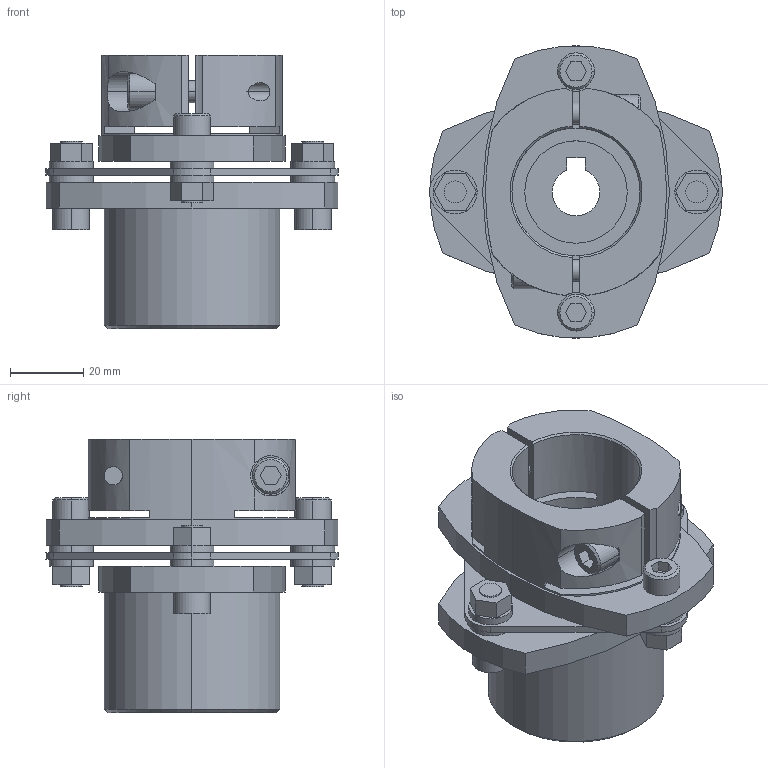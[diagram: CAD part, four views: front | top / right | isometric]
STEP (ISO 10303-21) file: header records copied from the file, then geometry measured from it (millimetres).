
FILE_DESCRIPTION((''),'2;1');
FILE_NAME('LCS-80M-16L亊35B.stp','2011-08-20T16:18:31',(''),(''),'AutoCAD STEP 2000i','AutoCAD 2000i',', , ');
FILE_SCHEMA(('CONFIG_CONTROL_DESIGN'));
Length unit declared in the file: millimetre
Products named in the file (10): LCS-80M-16L×35B; 忣兜1; LC80-B035; LC80-B032; LC80-B028; LC80-B020; LC80M-L016; LC80-B015-1; LC80-B015; LCS80-ITA
Assembly tree (9 placements, depth 2):
  LCS-80M-16L×35B
    忣兜1
    LC80-B035
    LC80-B032
    LC80-B028
    LC80-B020
    LC80M-L016
    LC80-B015-1
    LC80-B015
    LCS80-ITA
Bounding box: 80 x 79.95 x 74.75 mm (x, y, z)
Volume: 126913.8 mm3; surface area: 39601.8 mm2
Topology: 1 solids, 1 shells, 230 faces, 574 edges, 378 vertices
Faces by surface type: plane 115, cylinder 96, cone 19
Entity records: 7373 total; most frequent: CARTESIAN_POINT 1450, DIRECTION 1258, ORIENTED_EDGE 1148, EDGE_CURVE 574, AXIS2_PLACEMENT_3D 462, VERTEX_POINT 378, VECTOR 334, LINE 334
